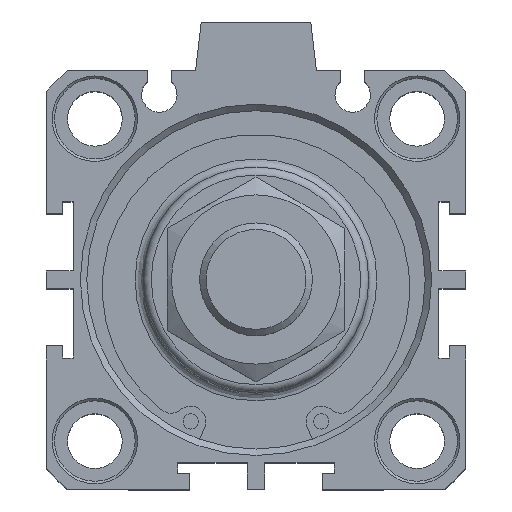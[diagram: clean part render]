
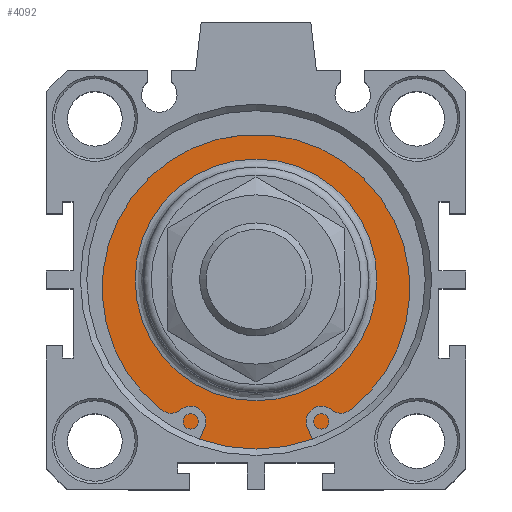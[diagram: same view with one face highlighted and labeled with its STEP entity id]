
A CAD part, top view. The second image highlights one B-rep face of the part: STEP entity #4092.
In plain terms, the highlighted planar face has unit normal (0, 0, 1).
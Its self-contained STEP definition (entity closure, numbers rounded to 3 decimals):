
#4041=CARTESIAN_POINT('',(-1.555,16.077,42.4));
#4042=VERTEX_POINT('',#4041);
#4043=CARTESIAN_POINT('',(-1.555,1.077,42.4));
#4044=DIRECTION('',(0.0,0.0,1.0));
#4045=DIRECTION('',(0.0,-1.0,0.0));
#4046=AXIS2_PLACEMENT_3D('',#4043,#4044,#4045);
#4047=CIRCLE('',#4046,15.);
#4048=EDGE_CURVE('',#4042,#4042,#4047,.T.);
#4073=CARTESIAN_POINT('',(-1.555,18.577,42.4));
#4074=DIRECTION('',(0.0,0.0,1.0));
#4075=DIRECTION('',(1.0,0.0,0.0));
#4076=AXIS2_PLACEMENT_3D('',#4073,#4074,#4075);
#4077=PLANE('',#4076);
#4078=CARTESIAN_POINT('',(-1.555,22.077,42.4));
#4079=VERTEX_POINT('',#4078);
#4080=CARTESIAN_POINT('',(-1.555,1.077,42.4));
#4081=DIRECTION('',(0.0,0.0,-1.0));
#4082=DIRECTION('',(0.0,1.0,0.0));
#4083=AXIS2_PLACEMENT_3D('',#4080,#4081,#4082);
#4084=CIRCLE('',#4083,21.);
#4085=EDGE_CURVE('',#4079,#4079,#4084,.T.);
#4086=ORIENTED_EDGE('',*,*,#4085,.F.);
#4087=EDGE_LOOP('',(#4086));
#4088=FACE_OUTER_BOUND('',#4087,.T.);
#4089=ORIENTED_EDGE('',*,*,#4048,.F.);
#4090=EDGE_LOOP('',(#4089));
#4091=FACE_BOUND('',#4090,.T.);
#4092=ADVANCED_FACE('',(#4088,#4091),#4077,.T.);
